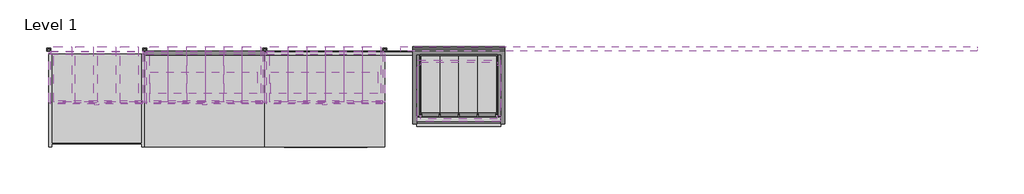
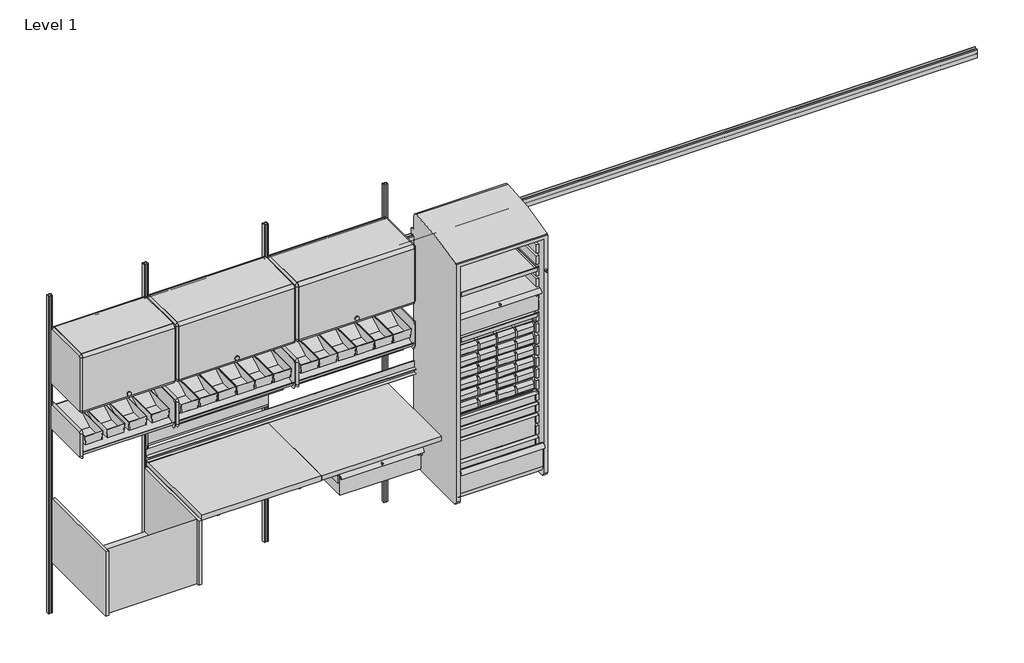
# One storey, incomplete: 50 furniture elements, 2 light fixtures.
"""IFC4 building model written with IfcOpenShell, lengths in millimetres."""

from ifc_helpers import new_model, si_unit, origin, place, context, project, spatial, transform, mapped, element, save
from components import furniture_03e73c74, furniture_d92eedc3, furniture_e3423f84, furniture_2f78b053, furniture_4518f5ca, furniture_6a9bea8c, furniture_c494f6ee, furniture_6299e03b, furniture_37b7cd53, furniture_0eaea0f9, furniture_ac9ddba1, furniture_c85c507a, furniture_f997a199, furniture_236c058c, furniture_fc90cfd9, furniture_cfa16b0f, furniture_e7193f1e, furniture_439713d6, furniture_82778d6f, furniture_48dc0a6c, furniture_fa600c10, furniture_10db817a, furniture_ea425779, a_3_cf56a04d, a_3_ebddeea6, b_6_024dd25a, b_6_31b83598, standard_144w_a9847ba4, light_fixture_30w_for_action_office_7462b566

model = new_model("IFC4")

# Units and contexts
model_context = context("Model", 3, world=origin())
ifc_project = project(units=[si_unit("LENGTHUNIT", "METRE", prefix="MILLI")], contexts=[model_context])

# Site, building, storey
site = spatial("IfcSite", under=ifc_project)
building = spatial("IfcBuilding", under=site)
storey = spatial("IfcBuildingStorey", under=building, Name="Level 1", Elevation=0.0)

# Furniture
placement = place(None, origin())
furniture_shape = furniture_03e73c74(model_context)
element("IfcFurniture", 1, ObjectType="HermanMiller_ActionOffice_A3220_B-StyleStorageDisplay : Display 13\"D x 24\"W", at=placement, inside=storey, context=model_context, shape_type="MappedRepresentation", body=[
    mapped(furniture_shape, transform((428.7420045, -200.025, 0.0), x_axis=(1.0, 0.0, 0.0), y_axis=(0.0, 1.0, 0.0), z_axis=(0.0, 0.0, 1.0))),
])
furniture_2_shape = furniture_d92eedc3(model_context)
element("IfcFurniture", 2, ObjectType="HermanMiller_CoStruc_C2910_WorkSurfaceBacksplash : 3\"H x 72\"W", at=placement, inside=storey, context=model_context, shape_type="MappedRepresentation", body=[
    mapped(furniture_2_shape, transform((1524.0, -19.05, 31.75), x_axis=(1.0, 0.0, 0.0), y_axis=(0.0, 1.0, 0.0), z_axis=(0.0, 0.0, 1.0))),
])
furniture_3_shape = furniture_e3423f84(model_context)
element("IfcFurniture", 3, ObjectType="HermanMiller_ActionOffice_A3220_B-StyleStorageDisplay : Display 13\"D x 30\"W", at=placement, inside=storey, context=model_context, shape_type="MappedRepresentation", body=[
    mapped(furniture_3_shape, transform((1876.5420045, -200.025, 0.0), x_axis=(1.0, 0.0, 0.0), y_axis=(0.0, 1.0, 0.0), z_axis=(0.0, 0.0, 1.0))),
])
element("IfcFurniture", 4, ObjectType="HermanMiller_ActionOffice_A3220_B-StyleStorageDisplay : Display 13\"D x 30\"W", at=placement, inside=storey, context=model_context, shape_type="MappedRepresentation", body=[
    mapped(furniture_3_shape, transform((1114.5420045, -200.025, 0.0), x_axis=(1.0, 0.0, 0.0), y_axis=(0.0, 1.0, 0.0), z_axis=(0.0, 0.0, 1.0))),
])
furniture_4_shape = furniture_2f78b053(model_context)
element("IfcFurniture", 5, ObjectType="HermanMiller_CoStruc_CO371_LockedDrawerWithLockableLid : B - 6\"H x 15\"D x 20\"W Lid Wlock", at=placement, inside=storey, context=model_context, shape_type="MappedRepresentation", body=[
    mapped(furniture_4_shape, transform((1764.3459801, -438.1881, 0.0), x_axis=(1.0, 0.0, 0.0), y_axis=(0.0, 1.0, 0.0), z_axis=(0.0, 0.0, 1.0))),
])
furniture_5_shape = furniture_4518f5ca(model_context)
element("IfcFurniture", 6, ObjectType="HermanMiller_CoStruc_CO371_LockedDrawerWithLockableLid : B - 6\"H x 15\"D x 20\"W Lid Wlock", at=placement, inside=storey, context=model_context, shape_type="MappedRepresentation", body=[
    mapped(furniture_5_shape, transform((2608.4667201, -272.33372, 0.0), x_axis=(1.0, 0.0, 0.0), y_axis=(0.0, 1.0, 0.0), z_axis=(0.0, 0.0, 1.0))),
])
furniture_6_shape = furniture_6a9bea8c(model_context)
element("IfcFurniture", 7, ObjectType="HermanMiller_CoStruc_CO203_CTrayShelf : 14\"D x 20\"W", at=placement, inside=storey, context=model_context, shape_type="MappedRepresentation", body=[
    mapped(furniture_6_shape, transform((2603.8683, -270.7470035, 0.0), x_axis=(-1.0, 0.0, 0.0), y_axis=(0.0, -1.0, 0.0), z_axis=(0.0, 0.0, 1.0))),
])
furniture_7_shape = furniture_c494f6ee(model_context)
element("IfcFurniture", 8, ObjectType="HermanMiller_CoStruc_CO565_Cassette Assembly : 6H x 15D x 20W", at=placement, inside=storey, context=model_context, shape_type="MappedRepresentation", body=[
    mapped(furniture_7_shape, transform((2608.68922, -238.95812, 0.0), x_axis=(1.0, 0.0, 0.0), y_axis=(0.0, 1.0, 0.0), z_axis=(0.0, 0.0, 1.0))),
])
furniture_8_shape = furniture_6299e03b(model_context)
element("IfcFurniture", 9, ObjectType="HermanMiller_CoStruc_CO565_Cassette Assembly : 6H x 15D x 20W", at=placement, inside=storey, context=model_context, shape_type="MappedRepresentation", body=[
    mapped(furniture_8_shape, transform((2608.68922, -238.95812, 0.0), x_axis=(1.0, 0.0, 0.0), y_axis=(0.0, 1.0, 0.0), z_axis=(0.0, 0.0, 1.0))),
])
furniture_9_shape = furniture_37b7cd53(model_context)
element("IfcFurniture", 10, ObjectType="HermanMiller_CoStruc_CO565_Cassette Assembly : 6H x 15D x 20W", at=placement, inside=storey, context=model_context, shape_type="MappedRepresentation", body=[
    mapped(furniture_9_shape, transform((2608.68922, -238.95812, 0.0), x_axis=(1.0, 0.0, 0.0), y_axis=(0.0, 1.0, 0.0), z_axis=(0.0, 0.0, 1.0))),
])
furniture_10_shape = furniture_0eaea0f9(model_context)
element("IfcFurniture", 11, ObjectType="HermanMiller_CoStruc_CO203_CTrayShelf : 14\"D x 20\"W", at=placement, inside=storey, context=model_context, shape_type="MappedRepresentation", body=[
    mapped(furniture_10_shape, transform((2603.8683, -270.7470035, -152.4), x_axis=(-1.0, 0.0, 0.0), y_axis=(0.0, -1.0, 0.0), z_axis=(0.0, 0.0, 1.0))),
])
furniture_11_shape = furniture_ac9ddba1(model_context)
element("IfcFurniture", 12, ObjectType="HermanMiller_CoStruc_CO561_LockerWithTambourDoor : 66\"H x 20\"D x 22\"W Wlock", at=placement, inside=storey, context=model_context, shape_type="MappedRepresentation", body=[
    mapped(furniture_11_shape, transform((2602.2808, -236.5375, 0.0), x_axis=(1.0, 0.0, 0.0), y_axis=(0.0, 1.0, 0.0), z_axis=(0.0, 0.0, 1.0))),
])
furniture_12_shape = furniture_c85c507a(model_context)
element("IfcFurniture", 13, ObjectType="HermanMiller_CoStruc_CO396_LockableDrawerBearer : 3\"H x 15\"D x 21\"W", at=placement, inside=storey, context=model_context, shape_type="MappedRepresentation", body=[
    mapped(furniture_12_shape, transform((1823.8925877, -349.2182425, 0.0), x_axis=(1.0, 0.0, 0.0), y_axis=(0.0, 1.0, 0.0), z_axis=(0.0, 0.0, 1.0))),
])
furniture_13_shape = furniture_f997a199(model_context)
element("IfcFurniture", 14, ObjectType="HermanMiller_CoStruc_C2140W_WorkSurfaceSupport_ComponentAdaptor : 14\"H x 24\"D x 30\"W", at=placement, inside=storey, context=model_context, shape_type="MappedRepresentation", body=[
    mapped(furniture_13_shape, transform((1752.6, -196.85, 0.0), x_axis=(1.0, 0.0, 0.0), y_axis=(0.0, 1.0, 0.0), z_axis=(0.0, 0.0, 1.0))),
])
furniture_14_shape = furniture_236c058c(model_context)
element("IfcFurniture", 15, ObjectType="HermanMiller_CoStruc_C2141_Heavy-DutyWorkSurface : 24\"D x 30\"W Lam", at=placement, inside=storey, context=model_context, shape_type="MappedRepresentation", body=[
    mapped(furniture_14_shape, transform((1676.4, -196.85, 0.0), x_axis=(1.0, 0.0, 0.0), y_axis=(0.0, 1.0, 0.0), z_axis=(0.0, 0.0, 1.0))),
])
element("IfcFurniture", 16, ObjectType="HermanMiller_CoStruc_C2141_Heavy-DutyWorkSurface : 24\"D x 30\"W Lam", at=placement, inside=storey, context=model_context, shape_type="MappedRepresentation", body=[
    mapped(furniture_14_shape, transform((914.4, -196.85, 0.0), x_axis=(1.0, 0.0, 0.0), y_axis=(0.0, 1.0, 0.0), z_axis=(0.0, 0.0, 1.0))),
])
furniture_15_shape = furniture_fc90cfd9(model_context)
element("IfcFurniture", 17, ObjectType="HermanMiller_CoStruc_C2512_SinkModule : 18\"H x 24\"D x 24\"W", at=placement, inside=storey, context=model_context, shape_type="MappedRepresentation", body=[
    mapped(furniture_15_shape, transform((304.8, -206.375, 0.0), x_axis=(1.0, 0.0, 0.0), y_axis=(0.0, 1.0, 0.0), z_axis=(0.0, 0.0, 1.0))),
])
furniture_16_shape = furniture_cfa16b0f(model_context)
element("IfcFurniture", 18, ObjectType="HermanMiller_ActionOffice_A3410_B-StyleTackboard : 12\"H x 30\"W", at=placement, inside=storey, context=model_context, shape_type="MappedRepresentation", body=[
    mapped(furniture_16_shape, transform((990.6, -31.75, 25.4), x_axis=(1.0, 0.0, 0.0), y_axis=(0.0, 1.0, 0.0), z_axis=(0.0, 0.0, 1.0))),
])
furniture_17_shape = furniture_e7193f1e(model_context)
element("IfcFurniture", 19, ObjectType="HermanMiller_CoStruc_CO231_Subcontainer : 2 1/4\"H x 13 7/8\"D x 4 1/2\"W", at=placement, inside=storey, context=model_context, shape_type="MappedRepresentation", body=[
    mapped(furniture_17_shape, transform((1169.91638, -169.1513, 0.0), x_axis=(-1.0, 0.0, 0.0), y_axis=(0.0, -1.0, 0.0), z_axis=(0.0, 0.0, 1.0))),
])
element("IfcFurniture", 20, ObjectType="HermanMiller_CoStruc_CO231_Subcontainer : 2 1/4\"H x 13 7/8\"D x 4 1/2\"W", at=placement, inside=storey, context=model_context, shape_type="MappedRepresentation", body=[
    mapped(furniture_17_shape, transform((1287.55902, -169.1513, 0.0), x_axis=(-1.0, 0.0, 0.0), y_axis=(0.0, -1.0, 0.0), z_axis=(0.0, 0.0, 1.0))),
])
element("IfcFurniture", 21, ObjectType="HermanMiller_CoStruc_CO231_Subcontainer : 2 1/4\"H x 13 7/8\"D x 4 1/2\"W", at=placement, inside=storey, context=model_context, shape_type="MappedRepresentation", body=[
    mapped(furniture_17_shape, transform((699.57696, -169.1513, 0.0), x_axis=(-1.0, 0.0, 0.0), y_axis=(0.0, -1.0, 0.0), z_axis=(0.0, 0.0, 1.0))),
])
element("IfcFurniture", 22, ObjectType="HermanMiller_CoStruc_CO231_Subcontainer : 2 1/4\"H x 13 7/8\"D x 4 1/2\"W", at=placement, inside=storey, context=model_context, shape_type="MappedRepresentation", body=[
    mapped(furniture_17_shape, transform((817.38978, -169.1513, 0.0), x_axis=(-1.0, 0.0, 0.0), y_axis=(0.0, -1.0, 0.0), z_axis=(0.0, 0.0, 1.0))),
])
element("IfcFurniture", 23, ObjectType="HermanMiller_CoStruc_CO231_Subcontainer : 2 1/4\"H x 13 7/8\"D x 4 1/2\"W", at=placement, inside=storey, context=model_context, shape_type="MappedRepresentation", body=[
    mapped(furniture_17_shape, transform((936.37608, -169.1513, 0.0), x_axis=(-1.0, 0.0, 0.0), y_axis=(0.0, -1.0, 0.0), z_axis=(0.0, 0.0, 1.0))),
])
element("IfcFurniture", 24, ObjectType="HermanMiller_CoStruc_CO231_Subcontainer : 2 1/4\"H x 13 7/8\"D x 4 1/2\"W", at=placement, inside=storey, context=model_context, shape_type="MappedRepresentation", body=[
    mapped(furniture_17_shape, transform((1054.01872, -169.1513, 0.0), x_axis=(-1.0, 0.0, 0.0), y_axis=(0.0, -1.0, 0.0), z_axis=(0.0, 0.0, 1.0))),
])
element("IfcFurniture", 25, ObjectType="HermanMiller_CoStruc_CO231_Subcontainer : 2 1/4\"H x 13 7/8\"D x 4 1/2\"W", at=placement, inside=storey, context=model_context, shape_type="MappedRepresentation", body=[
    mapped(furniture_17_shape, transform((1931.91638, -169.1513, 0.0), x_axis=(-1.0, 0.0, 0.0), y_axis=(0.0, -1.0, 0.0), z_axis=(0.0, 0.0, 1.0))),
])
element("IfcFurniture", 26, ObjectType="HermanMiller_CoStruc_CO231_Subcontainer : 2 1/4\"H x 13 7/8\"D x 4 1/2\"W", at=placement, inside=storey, context=model_context, shape_type="MappedRepresentation", body=[
    mapped(furniture_17_shape, transform((2049.55902, -169.1513, 0.0), x_axis=(-1.0, 0.0, 0.0), y_axis=(0.0, -1.0, 0.0), z_axis=(0.0, 0.0, 1.0))),
])
element("IfcFurniture", 27, ObjectType="HermanMiller_CoStruc_CO231_Subcontainer : 2 1/4\"H x 13 7/8\"D x 4 1/2\"W", at=placement, inside=storey, context=model_context, shape_type="MappedRepresentation", body=[
    mapped(furniture_17_shape, transform((89.97696, -169.1513, 0.0), x_axis=(-1.0, 0.0, 0.0), y_axis=(0.0, -1.0, 0.0), z_axis=(0.0, 0.0, 1.0))),
])
element("IfcFurniture", 28, ObjectType="HermanMiller_CoStruc_CO231_Subcontainer : 2 1/4\"H x 13 7/8\"D x 4 1/2\"W", at=placement, inside=storey, context=model_context, shape_type="MappedRepresentation", body=[
    mapped(furniture_17_shape, transform((227.965, -169.1513, 0.0), x_axis=(-1.0, 0.0, 0.0), y_axis=(0.0, -1.0, 0.0), z_axis=(0.0, 0.0, 1.0))),
])
element("IfcFurniture", 29, ObjectType="HermanMiller_CoStruc_CO231_Subcontainer : 2 1/4\"H x 13 7/8\"D x 4 1/2\"W", at=placement, inside=storey, context=model_context, shape_type="MappedRepresentation", body=[
    mapped(furniture_17_shape, transform((369.02898, -169.1513, 0.0), x_axis=(-1.0, 0.0, 0.0), y_axis=(0.0, -1.0, 0.0), z_axis=(0.0, 0.0, 1.0))),
])
element("IfcFurniture", 30, ObjectType="HermanMiller_CoStruc_CO231_Subcontainer : 2 1/4\"H x 13 7/8\"D x 4 1/2\"W", at=placement, inside=storey, context=model_context, shape_type="MappedRepresentation", body=[
    mapped(furniture_17_shape, transform((512.22402, -169.1513, 0.0), x_axis=(-1.0, 0.0, 0.0), y_axis=(0.0, -1.0, 0.0), z_axis=(0.0, 0.0, 1.0))),
])
element("IfcFurniture", 31, ObjectType="HermanMiller_CoStruc_CO231_Subcontainer : 2 1/4\"H x 13 7/8\"D x 4 1/2\"W", at=placement, inside=storey, context=model_context, shape_type="MappedRepresentation", body=[
    mapped(furniture_17_shape, transform((1461.57696, -169.1513, 0.0), x_axis=(-1.0, 0.0, 0.0), y_axis=(0.0, -1.0, 0.0), z_axis=(0.0, 0.0, 1.0))),
])
element("IfcFurniture", 32, ObjectType="HermanMiller_CoStruc_CO231_Subcontainer : 2 1/4\"H x 13 7/8\"D x 4 1/2\"W", at=placement, inside=storey, context=model_context, shape_type="MappedRepresentation", body=[
    mapped(furniture_17_shape, transform((1579.38978, -169.1513, 0.0), x_axis=(-1.0, 0.0, 0.0), y_axis=(0.0, -1.0, 0.0), z_axis=(0.0, 0.0, 1.0))),
])
element("IfcFurniture", 33, ObjectType="HermanMiller_CoStruc_CO231_Subcontainer : 2 1/4\"H x 13 7/8\"D x 4 1/2\"W", at=placement, inside=storey, context=model_context, shape_type="MappedRepresentation", body=[
    mapped(furniture_17_shape, transform((1698.37608, -169.1513, 0.0), x_axis=(-1.0, 0.0, 0.0), y_axis=(0.0, -1.0, 0.0), z_axis=(0.0, 0.0, 1.0))),
])
element("IfcFurniture", 34, ObjectType="HermanMiller_CoStruc_CO231_Subcontainer : 2 1/4\"H x 13 7/8\"D x 4 1/2\"W", at=placement, inside=storey, context=model_context, shape_type="MappedRepresentation", body=[
    mapped(furniture_17_shape, transform((1816.01872, -169.1513, 0.0), x_axis=(-1.0, 0.0, 0.0), y_axis=(0.0, -1.0, 0.0), z_axis=(0.0, 0.0, 1.0))),
])
furniture_18_shape = furniture_439713d6(model_context)
element("IfcFurniture", 35, ObjectType="HermanMiller_CoStruc_C2140R_WorkSurfaceSupport_ComponentAdaptorReady : 14H x 24D x 30W", at=placement, inside=storey, context=model_context, shape_type="MappedRepresentation", body=[
    mapped(furniture_18_shape, transform((990.6, -196.85, 0.0), x_axis=(1.0, 0.0, 0.0), y_axis=(0.0, 1.0, 0.0), z_axis=(0.0, 0.0, 1.0))),
])
furniture_19_shape = furniture_82778d6f(model_context)
element("IfcFurniture", 36, ObjectType="HermanMiller_ActionOffice_B-StyleFlipperDoor : Paint 15-1/2H x 13D x 24W", at=placement, inside=storey, context=model_context, shape_type="MappedRepresentation", body=[
    mapped(furniture_19_shape, transform((304.8, -200.025, 457.2), x_axis=(1.0, 0.0, 0.0), y_axis=(0.0, 1.0, 0.0), z_axis=(0.0, 0.0, 1.0))),
])
furniture_20_shape = furniture_48dc0a6c(model_context)
element("IfcFurniture", 37, ObjectType="HermanMiller_ActionOffice_B-StyleFlipperDoor : Paint 15-1/2H x 13D x 30W", at=placement, inside=storey, context=model_context, shape_type="MappedRepresentation", body=[
    mapped(furniture_20_shape, transform((990.6, -200.025, 457.2), x_axis=(1.0, 0.0, 0.0), y_axis=(0.0, 1.0, 0.0), z_axis=(0.0, 0.0, 1.0))),
])
element("IfcFurniture", 38, ObjectType="HermanMiller_ActionOffice_B-StyleFlipperDoor : Paint 15-1/2H x 13D x 30W", at=placement, inside=storey, context=model_context, shape_type="MappedRepresentation", body=[
    mapped(furniture_20_shape, transform((1752.6, -200.025, 457.2), x_axis=(1.0, 0.0, 0.0), y_axis=(0.0, 1.0, 0.0), z_axis=(0.0, 0.0, 1.0))),
])
furniture_21_shape = furniture_fa600c10(model_context)
element("IfcFurniture", 39, ObjectType="HermanMiller_CoStruc_B-StyleShelf : 15-1/2H x 13D x 24W", at=placement, inside=storey, context=model_context, shape_type="MappedRepresentation", body=[
    mapped(furniture_21_shape, transform((428.7420045, -200.025, 457.2), x_axis=(1.0, 0.0, 0.0), y_axis=(0.0, 1.0, 0.0), z_axis=(0.0, 0.0, 1.0))),
])
furniture_22_shape = furniture_10db817a(model_context)
element("IfcFurniture", 40, ObjectType="HermanMiller_CoStruc_B-StyleShelf : 15-1/2H x 13D x 30W", at=placement, inside=storey, context=model_context, shape_type="MappedRepresentation", body=[
    mapped(furniture_22_shape, transform((1114.5420045, -200.025, 457.2), x_axis=(1.0, 0.0, 0.0), y_axis=(0.0, 1.0, 0.0), z_axis=(0.0, 0.0, 1.0))),
])
element("IfcFurniture", 41, ObjectType="HermanMiller_CoStruc_B-StyleShelf : 15-1/2H x 13D x 30W", at=placement, inside=storey, context=model_context, shape_type="MappedRepresentation", body=[
    mapped(furniture_22_shape, transform((1876.5420045, -200.025, 457.2), x_axis=(1.0, 0.0, 0.0), y_axis=(0.0, 1.0, 0.0), z_axis=(0.0, 0.0, 1.0))),
])
furniture_23_shape = furniture_ea425779(model_context)
element("IfcFurniture", 42, ObjectType="HermanMiller_ActionOffice_AO213_WallStrip : 84\"H", at=placement, inside=storey, context=model_context, shape_type="MappedRepresentation", body=[
    mapped(furniture_23_shape, transform((2133.6, 0.0, 0.0), x_axis=(1.0, 0.0, 0.0), y_axis=(0.0, 1.0, 0.0), z_axis=(0.0, 0.0, 1.0))),
])
element("IfcFurniture", 43, ObjectType="HermanMiller_ActionOffice_AO213_WallStrip : 84\"H", at=placement, inside=storey, context=model_context, shape_type="MappedRepresentation", body=[
    mapped(furniture_23_shape, transform((1371.6, 0.0, 0.0), x_axis=(1.0, 0.0, 0.0), y_axis=(0.0, 1.0, 0.0), z_axis=(0.0, 0.0, 1.0))),
])
element("IfcFurniture", 44, ObjectType="HermanMiller_ActionOffice_AO213_WallStrip : 84\"H", at=placement, inside=storey, context=model_context, shape_type="MappedRepresentation", body=[
    mapped(furniture_23_shape, transform((609.6, 0.0, 0.0), x_axis=(1.0, 0.0, 0.0), y_axis=(0.0, 1.0, 0.0), z_axis=(0.0, 0.0, 1.0))),
])
element("IfcFurniture", 45, ObjectType="HermanMiller_ActionOffice_AO213_WallStrip : 84\"H", at=placement, inside=storey, context=model_context, shape_type="MappedRepresentation", body=[
    mapped(furniture_23_shape, transform((0.0, 0.0, 0.0), x_axis=(1.0, 0.0, 0.0), y_axis=(0.0, 1.0, 0.0), z_axis=(0.0, 0.0, 1.0))),
])
a_3_shape = a_3_cf56a04d(model_context)
element("IfcFurniture", 46, ObjectType="HermanMiller_CoStruc_CO207_Drawer : A - 3", at=placement, inside=storey, context=model_context, shape_type="MappedRepresentation", body=[
    mapped(a_3_shape, transform((2595.9218717, -242.15852, 0.0), x_axis=(1.0, 0.0, 0.0), y_axis=(0.0, 1.0, 0.0), z_axis=(0.0, 0.0, 1.0))),
])
a_3_2_shape = a_3_ebddeea6(model_context)
element("IfcFurniture", 47, ObjectType="HermanMiller_CoStruc_CO207_Drawer : A - 3", at=placement, inside=storey, context=model_context, shape_type="MappedRepresentation", body=[
    mapped(a_3_2_shape, transform((2595.9218717, -242.15852, 0.0), x_axis=(1.0, 0.0, 0.0), y_axis=(0.0, 1.0, 0.0), z_axis=(0.0, 0.0, 1.0))),
])
b_6_shape = b_6_024dd25a(model_context)
element("IfcFurniture", 48, ObjectType="HermanMiller_CoStruc_CO207_Drawer : B - 6", at=placement, inside=storey, context=model_context, shape_type="MappedRepresentation", body=[
    mapped(b_6_shape, transform((2595.9218717, -240.57102, 0.0), x_axis=(1.0, 0.0, 0.0), y_axis=(0.0, 1.0, 0.0), z_axis=(0.0, 0.0, 1.0))),
])
b_6_2_shape = b_6_31b83598(model_context)
element("IfcFurniture", 49, ObjectType="HermanMiller_CoStruc_CO207_Drawer : B - 6", at=placement, inside=storey, context=model_context, shape_type="MappedRepresentation", body=[
    mapped(b_6_2_shape, transform((2595.9218717, -240.57102, 0.0), x_axis=(1.0, 0.0, 0.0), y_axis=(0.0, 1.0, 0.0), z_axis=(0.0, 0.0, 1.0))),
])
standard_144w_shape = standard_144w_a9847ba4(model_context)
element("IfcFurniture", 50, ObjectType="HermanMiller_CoStruc_CO282_StandardRail : Standard 144W", at=placement, inside=storey, context=model_context, shape_type="MappedRepresentation", body=[
    mapped(standard_144w_shape, transform((4131.6888525, 9.525, 0.0), x_axis=(1.0, 0.0, 0.0), y_axis=(0.0, 1.0, 0.0), z_axis=(0.0, 0.0, 1.0))),
])

# Light fixtures
light_fixture_30w_for_action_office_shape = light_fixture_30w_for_action_office_7462b566(model_context)
element("IfcLightFixture", 51, ObjectType="HermanMiller_SupplementalProducts_G6170_EUnderShelfLEDTaskLight : 30W for Action Office", at=placement, inside=storey, context=model_context, shape_type="MappedRepresentation", body=[
    mapped(light_fixture_30w_for_action_office_shape, transform((985.8375, -222.25, 124.8679666), x_axis=(1.0, 0.0, 0.0), y_axis=(0.0, 1.0, 0.0), z_axis=(0.0, 0.0, 1.0))),
])
element("IfcLightFixture", 52, ObjectType="HermanMiller_SupplementalProducts_G6170_EUnderShelfLEDTaskLight : 30W for Action Office", at=placement, inside=storey, context=model_context, shape_type="MappedRepresentation", body=[
    mapped(light_fixture_30w_for_action_office_shape, transform((1747.8375, -222.25, 124.8679666), x_axis=(1.0, 0.0, 0.0), y_axis=(0.0, 1.0, 0.0), z_axis=(0.0, 0.0, 1.0))),
])

save(model, "model.ifc")
